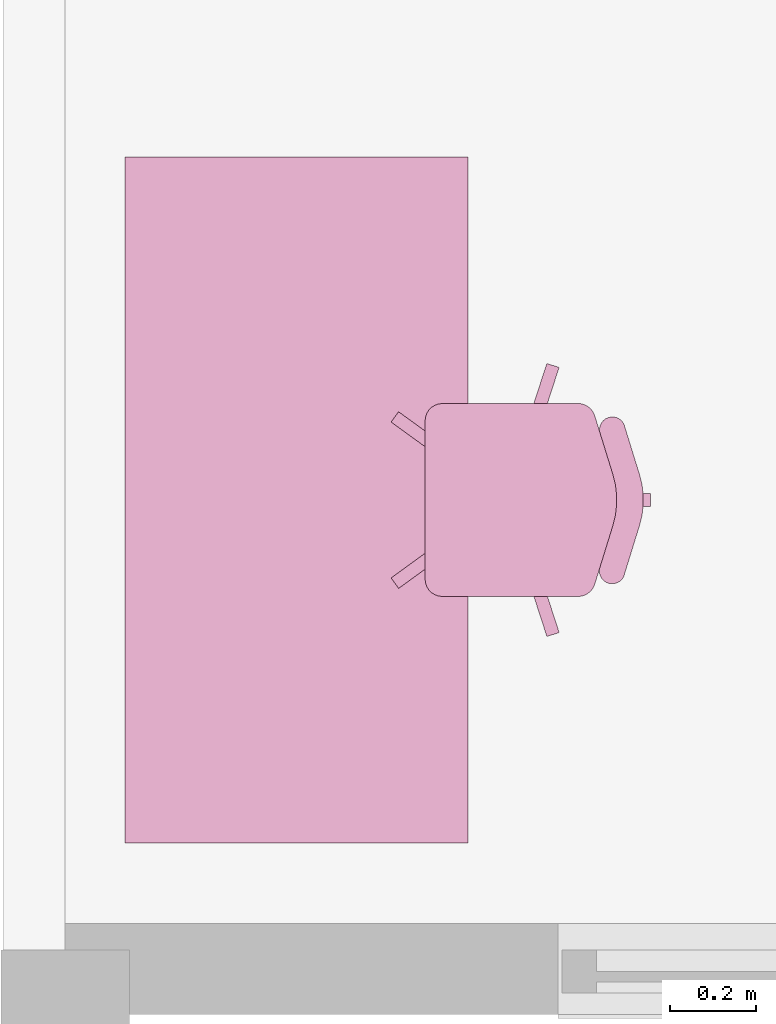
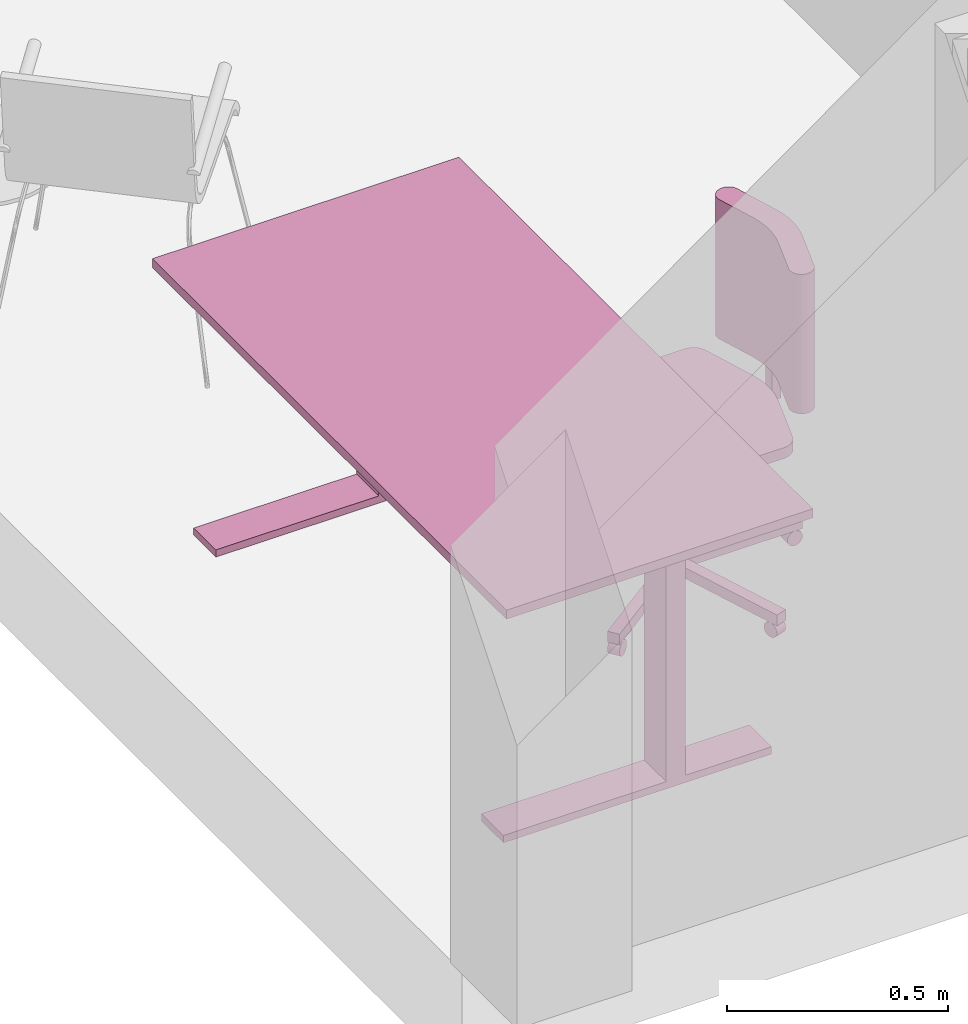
# One storey, part 41 of 58: 2 furnishings.
"""IFC2X3 building model written with IfcOpenShell, lengths in millimetres."""

from ifc_helpers import new_model, entity, si_unit, converted_unit, derived_unit, direction, frame, frame_2d, origin, origin_2d_with_axis, place, context, subcontext, project, spatial, polyline, circle_curve, parameter, trimmed, segment, composite_curve, rectangle, circle, outline, extrude, source, transform, mapped, material, material_list, type_object, type_shapes, element, save


model = new_model("IFC2X3")

# Units and contexts
model_context = context("Model", 3, precision=0.01, world=origin(), true_north=direction((0.7716245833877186, 0.6360782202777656)))
body_context = subcontext(model_context, "Body", "Model", "MODEL_VIEW")
ifc_project = project(units=[si_unit("LENGTHUNIT", "METRE", prefix="MILLI"), si_unit("AREAUNIT", "SQUARE_METRE"), converted_unit("PLANEANGLEUNIT", "DEGREE", entity("IfcPlaneAngleMeasure", 0.017453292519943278), si_unit("PLANEANGLEUNIT", "RADIAN"), dimensions=[0, 0, 0, 0, 0, 0, 0]), derived_unit("THERMALTRANSMITTANCEUNIT", [(si_unit("MASSUNIT", "GRAM", prefix="KILO"), 1), (si_unit("THERMODYNAMICTEMPERATUREUNIT", "KELVIN"), -1), (si_unit("TIMEUNIT", "SECOND"), -3)])], contexts=[model_context])

# Site, building, storey, space
site_placement = place(None, origin())
site = spatial("IfcSite", under=ifc_project, at=site_placement, Name="Default", CompositionType="ELEMENT")
building_placement = place(site_placement, origin())
building = spatial("IfcBuilding", under=site, at=building_placement, CompositionType="ELEMENT")
storey_placement = place(building_placement, frame((0.0, 0.0, 31140.0)))
storey = spatial("IfcBuildingStorey", under=building, at=storey_placement, Name="PLAN U1", CompositionType="ELEMENT", Elevation=31140.000000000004)
space_placement = place(storey_placement, origin())
space = spatial("IfcSpace", under=storey, at=space_placement, Name="B5-301", CompositionType="ELEMENT", InteriorOrExteriorSpace="INTERNAL")

# Furnishings
ifc_material_1 = material(Name="Metall")
ifc_material_2 = material(Name="Plate")
ifc_material_list_1 = material_list([ifc_material_1, ifc_material_2])
furniture_type_1 = type_object("IfcFurnitureType", Name="Arbeidsbord_elektrisk_hevsenk:Arbbord 800x1600", AssemblyPlace="NOTDEFINED", material=ifc_material_list_1)
shared_shape_1 = source(origin(), body_context, "Body", "SweptSolid", [
    extrude(rectangle(XDim=50.0, YDim=99.99999999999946, at=origin_2d_with_axis()), frame((650.0, 300.0, 20.0), z_axis=(0.0, 0.0, 1.0), x_axis=(0.0, -1.0, 0.0)), (0.0, 0.0, 1.0), 674.9999999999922),
    extrude(rectangle(XDim=50.0, YDim=99.99999999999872, at=frame_2d((0.0, 3.552713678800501e-14), x_axis=(1.0, 0.0))), frame((-650.0, 300.0, 20.0), z_axis=(0.0, 0.0, 1.0), x_axis=(0.0, -1.0, 0.0)), (0.0, 0.0, 1.0), 674.9999999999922),
    extrude(rectangle(XDim=699.9999999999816, YDim=99.99999999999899, at=frame_2d((0.0, 3.552713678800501e-14), x_axis=(1.0, 0.0))), frame((650.0, 400.0, 0.0), z_axis=(0.0, 0.0, 1.0), x_axis=(0.0, 1.0, 0.0)), (0.0, 0.0, 1.0), 19.999999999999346),
    extrude(rectangle(XDim=699.9999999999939, YDim=100.00000000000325, at=frame_2d((-2.842170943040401e-14, 0.0), x_axis=(1.0, 0.0))), frame((-650.0, 400.0, 0.0), z_axis=(0.0, 0.0, 1.0), x_axis=(0.0, 1.0, 0.0)), (0.0, 0.0, 1.0), 19.999999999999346),
    extrude(rectangle(XDim=799.9999999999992, YDim=1599.9999999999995, at=origin_2d_with_axis()), frame((0.0, 400.0, 695.0), z_axis=(0.0, 0.0, 1.0), x_axis=(0.0, 1.0, 0.0)), (0.0, 0.0, 1.0), 25.00000000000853),
    extrude(rectangle(XDim=799.9999999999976, YDim=1599.9999999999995, at=origin_2d_with_axis()), frame((0.0, 400.0, 695.0), z_axis=(0.0, 0.0, 1.0), x_axis=(0.0, 1.0, 0.0)), (0.0, 0.0, 1.0), 25.00000000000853),
])
type_shapes(furniture_type_1, [shared_shape_1])
furnishing_1_placement = place(space_placement, frame((259657.92444647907, 54515.25555007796, 0.0), z_axis=(0.0, 0.0, 1.0), x_axis=(0.0, 1.0, 0.0)))
element("IfcFurnishingElement", 1, at=furnishing_1_placement, inside=space, type_object=furniture_type_1, material=ifc_material_list_1, Name="Arbeidsbord_elektrisk_hevsenk:Arbbord 800x1600", ObjectType="Arbeidsbord_elektrisk_hevsenk:Arbbord 800x1600", context=body_context, shape_type="MappedRepresentation", body=[
    mapped(shared_shape_1, transform((0.0, 0.0, 0.0), scale=1.0)),
])
ifc_material_3 = material(Name="Stoff")
ifc_material_list_2 = material_list([ifc_material_1, ifc_material_3])
furniture_type_2 = type_object("IfcFurnitureType", Name="Kontorstol_uten_arml:Kontorstol", AssemblyPlace="NOTDEFINED", material=ifc_material_list_2)
shared_shape_2 = source(origin(), body_context, "Body", "SweptSolid", [
    extrude(rectangle(XDim=29.993876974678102, YDim=23.3196738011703, at=frame_2d((2.6645352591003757e-15, 3.375077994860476e-14), x_axis=(1.0, 0.0))), frame((-0.08594931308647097, 458.13719107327, 420.0), z_axis=(0.0, 0.0, 1.0), x_axis=(-1.0, 0.0, 0.0)), (0.0, 0.0, 1.0), 79.99999999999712),
    extrude(outline(composite_curve([segment(polyline([(-166.8872231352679, -63.24327611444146), (-41.887223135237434, -63.243276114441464)]), True, "CONTINUOUS"), segment(trimmed(circle_curve(frame_2d((-41.88722313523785, 136.75672388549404), x_axis=(-0.9553448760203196, -0.2954930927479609)), 199.99999999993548), [parameter(72.81289228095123)], [parameter(107.18710730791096)], True, "PARAMETER"), True, "CONTINUOUS"), segment(polyline([(71.03190050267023, -28.316809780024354), (172.84154377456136, 41.3264300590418)]), True, "CONTINUOUS"), segment(trimmed(circle_curve(frame_2d((152.39944907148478, 63.28367861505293), x_axis=(-0.9553448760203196, -0.2954930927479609)), 30.0), [parameter(115.7662804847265)], [parameter(278.6079341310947)], True, "PARAMETER"), True, "CONTINUOUS"), segment(polyline([(139.34485343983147, 90.29437155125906), (52.681247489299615, 31.01183111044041)]), True, "CONTINUOUS"), segment(trimmed(circle_curve(frame_2d((-60.2378761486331, 196.0853647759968), x_axis=(-0.9553448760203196, -0.2954930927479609)), 199.99999999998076), [parameter(72.81289242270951)], [parameter(107.18710730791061)], True, "PARAMETER"), False, "CONTINUOUS"), segment(polyline([(-60.23787565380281, -3.9146352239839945), (-166.88722328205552, -3.9146354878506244)]), True, "CONTINUOUS"), segment(trimmed(circle_curve(frame_2d((-162.41194664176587, -33.57895579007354), x_axis=(-0.9553448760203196, -0.2954930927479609)), 30.0), [parameter(261.3920633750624)], [parameter(64.23372147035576)], True, "PARAMETER"), True, "CONTINUOUS")], self_intersect=False)), frame((0.3939250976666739, 452.3086458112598, 500.0), z_axis=(0.0, 0.0, 1.0), x_axis=(-0.955344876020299, 0.29549309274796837, 0.0)), (0.0, 0.0, 1.0), 384.9999999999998),
    extrude(outline(composite_curve([segment(trimmed(circle_curve(frame_2d((185.0, -206.35232221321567), x_axis=(1.0, 0.0)), 39.99999999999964), [parameter(270.0000000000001)], [parameter(1.0177774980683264e-13)], True, "PARAMETER"), True, "CONTINUOUS"), segment(polyline([(225.0, -206.35232221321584), (225.0, 114.73987977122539)]), True, "CONTINUOUS"), segment(trimmed(circle_curve(frame_2d((184.37947209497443, 110.49005175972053), x_axis=(1.0, 0.0)), 40.84223691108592), [parameter(5.972708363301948)], [parameter(76.63511870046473)], True, "PARAMETER"), True, "CONTINUOUS"), segment(polyline([(193.82022090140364, 150.22618868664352), (59.098618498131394, 191.8962741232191)]), True, "CONTINUOUS"), segment(trimmed(circle_curve(frame_2d((4.212244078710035e-07, 0.8272987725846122), x_axis=(1.0, 0.0)), 200.00000000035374), [parameter(72.81289242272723)], [parameter(107.18710757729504)], True, "PARAMETER"), True, "CONTINUOUS"), segment(polyline([(-59.09861765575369, 191.8962741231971), (-193.82022104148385, 150.22618838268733)]), True, "CONTINUOUS"), segment(trimmed(circle_curve(frame_2d((-184.42156675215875, 110.53750606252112), x_axis=(1.0, 0.0)), 40.78634828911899), [parameter(103.32275860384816)], [parameter(185.78772268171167)], True, "PARAMETER"), True, "CONTINUOUS"), segment(polyline([(-225.0, 106.42448376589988), (-225.0, -206.35232221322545)]), True, "CONTINUOUS"), segment(trimmed(circle_curve(frame_2d((-185.0, -206.35232221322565), x_axis=(1.0, 0.0)), 39.99999999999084), [parameter(179.99999999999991)], [parameter(270.0000000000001)], True, "PARAMETER"), True, "CONTINUOUS"), segment(polyline([(-185.0, -246.3523222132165), (185.0, -246.3523222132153)]), True, "CONTINUOUS")], self_intersect=False)), frame((1.1704753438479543e-07, 246.3523222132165, 420.0)), (0.0, 0.0, 1.0), 30.000000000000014),
    extrude(circle(Radius=19.999999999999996, at=frame_2d((0.0, -8.882894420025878e-14), x_axis=(1.0, 0.0))), frame((-194.12496236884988, -45.75823201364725, 20.0), z_axis=(0.8091973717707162, -0.5875369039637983, 0.0), x_axis=(-0.5875369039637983, -0.8091973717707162, 0.0)), (0.0, 0.0, 1.0), 29.630650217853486),
    extrude(circle(Radius=19.999999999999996, at=frame_2d((0.0, -3.383959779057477e-14), x_axis=(1.0, 0.0))), frame((-15.095151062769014, 506.38378426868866, 20.0), z_axis=(0.9999999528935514, 0.0003069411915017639, 0.0), x_axis=(-0.0003069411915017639, 0.9999999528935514, 0.0)), (0.0, 0.0, 1.0), 29.999999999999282),
    extrude(circle(Radius=19.999999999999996, at=frame_2d((0.0, -3.383959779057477e-14), x_axis=(1.0, 0.0))), frame((-299.4877855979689, 277.8259021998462, 20.0), z_axis=(0.3087250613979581, 0.9511513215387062, 0.0), x_axis=(-0.9511513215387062, 0.3087250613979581, 0.0)), (0.0, 0.0, 1.0), 29.99999999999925),
    extrude(circle(Radius=19.999999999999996, at=frame_2d((0.0, -8.882894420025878e-14), x_axis=(1.0, 0.0))), frame((170.15785091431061, -63.17142782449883, 20.0), z_axis=(0.8088365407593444, 0.5880335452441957, 0.0), x_axis=(0.5880335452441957, -0.8088365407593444, 0.0)), (0.0, 0.0, 1.0), 29.999999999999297),
    extrude(circle(Radius=19.999999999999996, at=frame_2d((0.0, -8.882894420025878e-14), x_axis=(1.0, 0.0))), frame((299.4377361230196, 278.00973712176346, 20.0), z_axis=(-0.30930889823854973, 0.9509616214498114, 0.0), x_axis=(0.9509616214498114, 0.30930889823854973, 0.0)), (0.0, 0.0, 1.0), 29.999999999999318),
    extrude(circle(Radius=11.0, at=frame_2d((-1.5007502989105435e-14, -7.276412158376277e-14), x_axis=(1.0, 0.0))), frame((0.0, 196.38840298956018, 248.23543396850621), z_axis=(0.0, 0.0, 1.0), x_axis=(0.8088365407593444, 0.5880335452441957, 0.0)), (0.0, 0.0, 1.0), 171.76456603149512),
    extrude(circle(Radius=14.999999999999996, at=frame_2d((1.2051828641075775e-14, -8.761819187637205e-15), x_axis=(1.0, 0.0))), frame((0.0, 196.38840298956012, 70.0), z_axis=(0.0, 0.0, 1.0), x_axis=(0.8088365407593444, 0.5880335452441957, 0.0)), (0.0, 0.0, 1.0), 178.2354339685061),
    extrude(outline(polyline([(20.45402245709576, -15.007609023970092), (330.00247232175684, -15.007609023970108), (330.00247232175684, 14.992390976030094), (20.648201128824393, 14.992390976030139), (116.24392820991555, 309.2057864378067), (87.71223272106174, 318.4762962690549), (-7.88349436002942, 24.262900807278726), (-258.1563570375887, 206.09677914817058), (-275.7899146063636, 181.82626931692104), (-25.517051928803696, -0.007609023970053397), (-275.7899146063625, -181.84148736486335), (-258.15635703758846, -206.11199719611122), (-7.726400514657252, -24.163983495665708), (87.88786897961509, -318.43444663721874), (116.06829195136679, -309.2780721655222), (20.45402245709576, -15.007609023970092)])), frame((0.004700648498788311, 196.3948770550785, 40.0), z_axis=(0.0, 0.0, 1.0), x_axis=(0.5880335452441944, -0.8088365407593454, 0.0)), (0.0, 0.0, 1.0), 29.999999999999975),
])
type_shapes(furniture_type_2, [shared_shape_2])
furnishing_2_placement = place(space_placement, frame((259557.92444647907, 54515.25555007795, 0.0), z_axis=(0.0, 0.0, 1.0), x_axis=(0.0, -1.0, 0.0)))
element("IfcFurnishingElement", 2, at=furnishing_2_placement, inside=space, type_object=furniture_type_2, material=ifc_material_list_2, Name="Kontorstol_uten_arml:Kontorstol", ObjectType="Kontorstol_uten_arml:Kontorstol", context=body_context, shape_type="MappedRepresentation", body=[
    mapped(shared_shape_2, transform((0.0, 0.0, 0.0), scale=1.0)),
])

save(model, "model.ifc")
